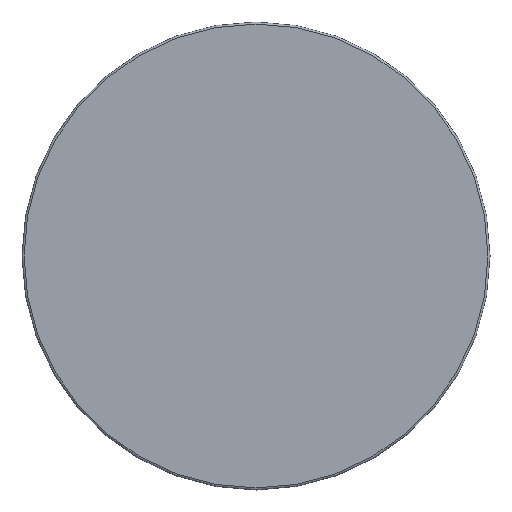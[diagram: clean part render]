
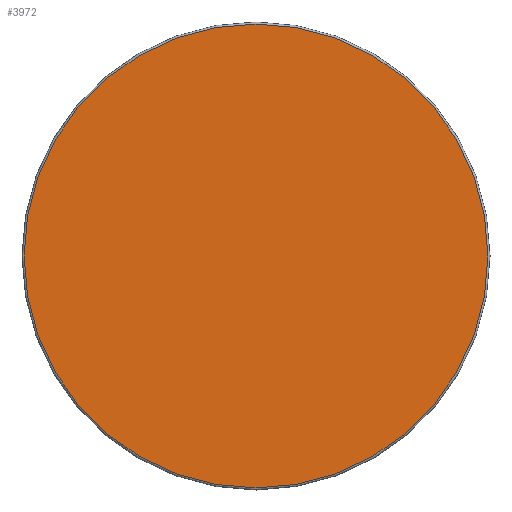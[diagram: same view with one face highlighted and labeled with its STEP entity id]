
A CAD part, front view. The second image highlights one B-rep face of the part: STEP entity #3972.
In plain terms, the highlighted planar face has unit normal (0, -1, 0).
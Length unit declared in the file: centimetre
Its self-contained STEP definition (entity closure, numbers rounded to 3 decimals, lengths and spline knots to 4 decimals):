
#60=CIRCLE('',#4241,22.3);
#276=FACE_OUTER_BOUND('',#499,.T.);
#499=EDGE_LOOP('',(#2621));
#1583=VERTEX_POINT('',#5839);
#1979=EDGE_CURVE('',#1583,#1583,#60,.T.);
#2621=ORIENTED_EDGE('',*,*,#1979,.F.);
#3628=PLANE('',#4245);
#3972=ADVANCED_FACE('',(#276),#3628,.F.);
#4241=AXIS2_PLACEMENT_3D('',#5841,#4709,#4710);
#4245=AXIS2_PLACEMENT_3D('',#5847,#4718,#4719);
#4709=DIRECTION('center_axis',(0.,1.,0.));
#4710=DIRECTION('ref_axis',(-1.,0.,0.));
#4718=DIRECTION('center_axis',(0.,1.,0.));
#4719=DIRECTION('ref_axis',(0.,0.,
-1.));
#5839=CARTESIAN_POINT('',(0.,0.,22.3));
#5841=CARTESIAN_POINT('Origin',(0.,0.,0.));
#5847=CARTESIAN_POINT('Origin',(0.,0.,0.));
